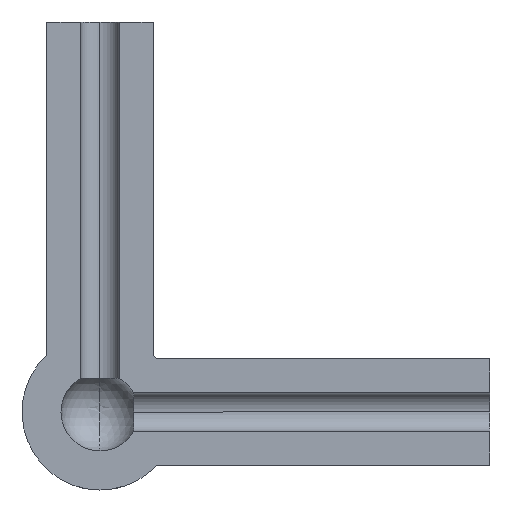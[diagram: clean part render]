
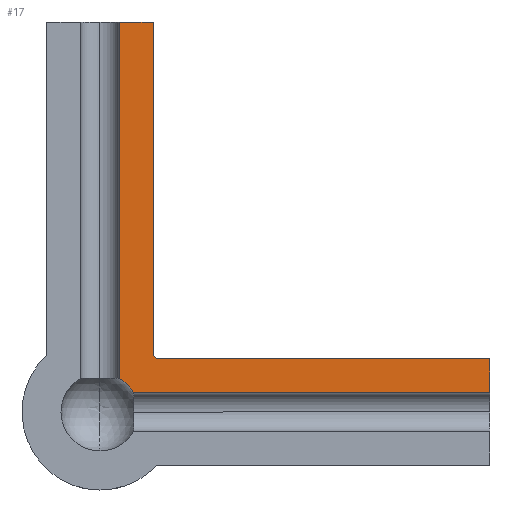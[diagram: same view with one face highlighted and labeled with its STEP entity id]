
A CAD part, left-side view. The second image highlights one B-rep face of the part: STEP entity #17.
In plain terms, the highlighted planar face has unit normal (-1, 0, 0).
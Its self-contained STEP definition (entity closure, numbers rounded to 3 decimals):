
#17 = ADVANCED_FACE('',(#18),#32,.F.);
#18 = FACE_BOUND('',#19,.F.);
#19 = EDGE_LOOP('',(#20,#53,#79,#105,#134,#160,#186,#212));
#20 = ORIENTED_EDGE('',*,*,#21,.T.);
#21 = EDGE_CURVE('',#22,#24,#26,.T.);
#22 = VERTEX_POINT('',#23);
#23 = CARTESIAN_POINT('',(0.,-87.613,82.));
#24 = VERTEX_POINT('',#25);
#25 = CARTESIAN_POINT('',(0.,-600.,82.));
#26 = SURFACE_CURVE('',#27,(#31,#42),.PCURVE_S1.);
#27 = LINE('',#28,#29);
#28 = CARTESIAN_POINT('',(0.,0.,82.));
#29 = VECTOR('',#30,1.);
#30 = DIRECTION('',(0.,-1.,0.));
#31 = PCURVE('',#32,#37);
#32 = PLANE('',#33);
#33 = AXIS2_PLACEMENT_3D('',#34,#35,#36);
#34 = CARTESIAN_POINT('',(0.,-700.,-200.));
#35 = DIRECTION('',(1.,0.,0.));
#36 = DIRECTION('',(0.,0.,1.));
#37 = DEFINITIONAL_REPRESENTATION('',(#38),#41);
#38 = B_SPLINE_CURVE_WITH_KNOTS('',1,(#39,#40),.UNSPECIFIED.,.F.,.F.,(2,
    2),(87.613,600.),.PIECEWISE_BEZIER_KNOTS.);
#39 = CARTESIAN_POINT('',(282.,-612.387));
#40 = CARTESIAN_POINT('',(282.,-100.));
#41 = ( GEOMETRIC_REPRESENTATION_CONTEXT(2) 
PARAMETRIC_REPRESENTATION_CONTEXT() REPRESENTATION_CONTEXT('2D SPACE',''
  ) );
#42 = PCURVE('',#43,#48);
#43 = CYLINDRICAL_SURFACE('',#44,82.);
#44 = AXIS2_PLACEMENT_3D('',#45,#46,#47);
#45 = CARTESIAN_POINT('',(0.,0.,0.));
#46 = DIRECTION('',(0.,-1.,0.));
#47 = DIRECTION('',(1.,0.,0.));
#48 = DEFINITIONAL_REPRESENTATION('',(#49),#52);
#49 = B_SPLINE_CURVE_WITH_KNOTS('',1,(#50,#51),.UNSPECIFIED.,.F.,.F.,(2,
    2),(87.613,600.),.PIECEWISE_BEZIER_KNOTS.);
#50 = CARTESIAN_POINT('',(1.571,87.613));
#51 = CARTESIAN_POINT('',(1.571,600.));
#52 = ( GEOMETRIC_REPRESENTATION_CONTEXT(2) 
PARAMETRIC_REPRESENTATION_CONTEXT() REPRESENTATION_CONTEXT('2D SPACE',''
  ) );
#53 = ORIENTED_EDGE('',*,*,#54,.T.);
#54 = EDGE_CURVE('',#24,#55,#57,.T.);
#55 = VERTEX_POINT('',#56);
#56 = CARTESIAN_POINT('',(0.,-600.,30.));
#57 = SURFACE_CURVE('',#58,(#62,#68),.PCURVE_S1.);
#58 = LINE('',#59,#60);
#59 = CARTESIAN_POINT('',(0.,-600.,-100.));
#60 = VECTOR('',#61,1.);
#61 = DIRECTION('',(0.,0.,-1.));
#62 = PCURVE('',#32,#63);
#63 = DEFINITIONAL_REPRESENTATION('',(#64),#67);
#64 = B_SPLINE_CURVE_WITH_KNOTS('',1,(#65,#66),.UNSPECIFIED.,.F.,.F.,(2,
    2),(-198.4,-1.6),.PIECEWISE_BEZIER_KNOTS.);
#65 = CARTESIAN_POINT('',(298.4,-100.));
#66 = CARTESIAN_POINT('',(101.6,-100.));
#67 = ( GEOMETRIC_REPRESENTATION_CONTEXT(2) 
PARAMETRIC_REPRESENTATION_CONTEXT() REPRESENTATION_CONTEXT('2D SPACE',''
  ) );
#68 = PCURVE('',#69,#74);
#69 = PLANE('',#70);
#70 = AXIS2_PLACEMENT_3D('',#71,#72,#73);
#71 = CARTESIAN_POINT('',(0.,-600.,0.));
#72 = DIRECTION('',(0.,-1.,0.));
#73 = DIRECTION('',(1.,0.,0.));
#74 = DEFINITIONAL_REPRESENTATION('',(#75),#78);
#75 = B_SPLINE_CURVE_WITH_KNOTS('',1,(#76,#77),.UNSPECIFIED.,.F.,.F.,(2,
    2),(-198.4,-1.6),.PIECEWISE_BEZIER_KNOTS.);
#76 = CARTESIAN_POINT('',(0.,98.4));
#77 = CARTESIAN_POINT('',(0.,-98.4));
#78 = ( GEOMETRIC_REPRESENTATION_CONTEXT(2) 
PARAMETRIC_REPRESENTATION_CONTEXT() REPRESENTATION_CONTEXT('2D SPACE',''
  ) );
#79 = ORIENTED_EDGE('',*,*,#80,.F.);
#80 = EDGE_CURVE('',#81,#55,#83,.T.);
#81 = VERTEX_POINT('',#82);
#82 = CARTESIAN_POINT('',(0.,-51.962,30.));
#83 = SURFACE_CURVE('',#84,(#88,#94),.PCURVE_S1.);
#84 = LINE('',#85,#86);
#85 = CARTESIAN_POINT('',(0.,0.,30.));
#86 = VECTOR('',#87,1.);
#87 = DIRECTION('',(0.,-1.,0.));
#88 = PCURVE('',#32,#89);
#89 = DEFINITIONAL_REPRESENTATION('',(#90),#93);
#90 = B_SPLINE_CURVE_WITH_KNOTS('',1,(#91,#92),.UNSPECIFIED.,.F.,.F.,(2,
    2),(51.962,600.),.PIECEWISE_BEZIER_KNOTS.);
#91 = CARTESIAN_POINT('',(230.,-648.038));
#92 = CARTESIAN_POINT('',(230.,-100.));
#93 = ( GEOMETRIC_REPRESENTATION_CONTEXT(2) 
PARAMETRIC_REPRESENTATION_CONTEXT() REPRESENTATION_CONTEXT('2D SPACE',''
  ) );
#94 = PCURVE('',#95,#100);
#95 = CYLINDRICAL_SURFACE('',#96,30.);
#96 = AXIS2_PLACEMENT_3D('',#97,#98,#99);
#97 = CARTESIAN_POINT('',(0.,0.,0.));
#98 = DIRECTION('',(0.,-1.,0.));
#99 = DIRECTION('',(1.,0.,0.));
#100 = DEFINITIONAL_REPRESENTATION('',(#101),#104);
#101 = B_SPLINE_CURVE_WITH_KNOTS('',1,(#102,#103),.UNSPECIFIED.,.F.,.F.,
  (2,2),(51.962,600.),.PIECEWISE_BEZIER_KNOTS.);
#102 = CARTESIAN_POINT('',(1.571,51.962));
#103 = CARTESIAN_POINT('',(1.571,600.));
#104 = ( GEOMETRIC_REPRESENTATION_CONTEXT(2) 
PARAMETRIC_REPRESENTATION_CONTEXT() REPRESENTATION_CONTEXT('2D SPACE',''
  ) );
#105 = ORIENTED_EDGE('',*,*,#106,.F.);
#106 = EDGE_CURVE('',#107,#81,#109,.T.);
#107 = VERTEX_POINT('',#108);
#108 = CARTESIAN_POINT('',(0.,-30.,51.962));
#109 = SURFACE_CURVE('',#110,(#115,#122),.PCURVE_S1.);
#110 = CIRCLE('',#111,60.);
#111 = AXIS2_PLACEMENT_3D('',#112,#113,#114);
#112 = CARTESIAN_POINT('',(0.,0.,0.));
#113 = DIRECTION('',(1.,0.,0.));
#114 = DIRECTION('',(0.,0.,1.));
#115 = PCURVE('',#32,#116);
#116 = DEFINITIONAL_REPRESENTATION('',(#117),#121);
#117 = CIRCLE('',#118,60.);
#118 = AXIS2_PLACEMENT_2D('',#119,#120);
#119 = CARTESIAN_POINT('',(200.,-700.));
#120 = DIRECTION('',(1.,0.));
#121 = ( GEOMETRIC_REPRESENTATION_CONTEXT(2) 
PARAMETRIC_REPRESENTATION_CONTEXT() REPRESENTATION_CONTEXT('2D SPACE',''
  ) );
#122 = PCURVE('',#123,#128);
#123 = SPHERICAL_SURFACE('',#124,60.);
#124 = AXIS2_PLACEMENT_3D('',#125,#126,#127);
#125 = CARTESIAN_POINT('',(0.,0.,0.));
#126 = DIRECTION('',(0.,0.,1.));
#127 = DIRECTION('',(1.,0.,0.));
#128 = DEFINITIONAL_REPRESENTATION('',(#129),#133);
#129 = LINE('',#130,#131);
#130 = CARTESIAN_POINT('',(4.712,1.571));
#131 = VECTOR('',#132,1.);
#132 = DIRECTION('',(0.,-1.));
#133 = ( GEOMETRIC_REPRESENTATION_CONTEXT(2) 
PARAMETRIC_REPRESENTATION_CONTEXT() REPRESENTATION_CONTEXT('2D SPACE',''
  ) );
#134 = ORIENTED_EDGE('',*,*,#135,.T.);
#135 = EDGE_CURVE('',#107,#136,#138,.T.);
#136 = VERTEX_POINT('',#137);
#137 = CARTESIAN_POINT('',(0.,-30.,600.));
#138 = SURFACE_CURVE('',#139,(#143,#149),.PCURVE_S1.);
#139 = LINE('',#140,#141);
#140 = CARTESIAN_POINT('',(0.,-30.,0.));
#141 = VECTOR('',#142,1.);
#142 = DIRECTION('',(0.,0.,1.));
#143 = PCURVE('',#32,#144);
#144 = DEFINITIONAL_REPRESENTATION('',(#145),#148);
#145 = B_SPLINE_CURVE_WITH_KNOTS('',1,(#146,#147),.UNSPECIFIED.,.F.,.F.,
  (2,2),(51.962,600.),.PIECEWISE_BEZIER_KNOTS.);
#146 = CARTESIAN_POINT('',(251.962,-670.));
#147 = CARTESIAN_POINT('',(800.,-670.));
#148 = ( GEOMETRIC_REPRESENTATION_CONTEXT(2) 
PARAMETRIC_REPRESENTATION_CONTEXT() REPRESENTATION_CONTEXT('2D SPACE',''
  ) );
#149 = PCURVE('',#150,#155);
#150 = CYLINDRICAL_SURFACE('',#151,30.);
#151 = AXIS2_PLACEMENT_3D('',#152,#153,#154);
#152 = CARTESIAN_POINT('',(0.,0.,0.));
#153 = DIRECTION('',(0.,0.,1.));
#154 = DIRECTION('',(1.,0.,0.));
#155 = DEFINITIONAL_REPRESENTATION('',(#156),#159);
#156 = B_SPLINE_CURVE_WITH_KNOTS('',1,(#157,#158),.UNSPECIFIED.,.F.,.F.,
  (2,2),(51.962,600.),.PIECEWISE_BEZIER_KNOTS.);
#157 = CARTESIAN_POINT('',(4.712,51.962));
#158 = CARTESIAN_POINT('',(4.712,600.));
#159 = ( GEOMETRIC_REPRESENTATION_CONTEXT(2) 
PARAMETRIC_REPRESENTATION_CONTEXT() REPRESENTATION_CONTEXT('2D SPACE',''
  ) );
#160 = ORIENTED_EDGE('',*,*,#161,.T.);
#161 = EDGE_CURVE('',#136,#162,#164,.T.);
#162 = VERTEX_POINT('',#163);
#163 = CARTESIAN_POINT('',(0.,-82.,600.));
#164 = SURFACE_CURVE('',#165,(#169,#175),.PCURVE_S1.);
#165 = LINE('',#166,#167);
#166 = CARTESIAN_POINT('',(0.,-350.,600.));
#167 = VECTOR('',#168,1.);
#168 = DIRECTION('',(0.,-1.,0.));
#169 = PCURVE('',#32,#170);
#170 = DEFINITIONAL_REPRESENTATION('',(#171),#174);
#171 = B_SPLINE_CURVE_WITH_KNOTS('',1,(#172,#173),.UNSPECIFIED.,.F.,.F.,
  (2,2),(-448.4,-251.6),.PIECEWISE_BEZIER_KNOTS.);
#172 = CARTESIAN_POINT('',(800.,-798.4));
#173 = CARTESIAN_POINT('',(800.,-601.6));
#174 = ( GEOMETRIC_REPRESENTATION_CONTEXT(2) 
PARAMETRIC_REPRESENTATION_CONTEXT() REPRESENTATION_CONTEXT('2D SPACE',''
  ) );
#175 = PCURVE('',#176,#181);
#176 = PLANE('',#177);
#177 = AXIS2_PLACEMENT_3D('',#178,#179,#180);
#178 = CARTESIAN_POINT('',(0.,0.,600.));
#179 = DIRECTION('',(0.,0.,1.));
#180 = DIRECTION('',(1.,0.,0.));
#181 = DEFINITIONAL_REPRESENTATION('',(#182),#185);
#182 = B_SPLINE_CURVE_WITH_KNOTS('',1,(#183,#184),.UNSPECIFIED.,.F.,.F.,
  (2,2),(-448.4,-251.6),.PIECEWISE_BEZIER_KNOTS.);
#183 = CARTESIAN_POINT('',(0.,98.4));
#184 = CARTESIAN_POINT('',(0.,-98.4));
#185 = ( GEOMETRIC_REPRESENTATION_CONTEXT(2) 
PARAMETRIC_REPRESENTATION_CONTEXT() REPRESENTATION_CONTEXT('2D SPACE',''
  ) );
#186 = ORIENTED_EDGE('',*,*,#187,.F.);
#187 = EDGE_CURVE('',#188,#162,#190,.T.);
#188 = VERTEX_POINT('',#189);
#189 = CARTESIAN_POINT('',(0.,-82.,87.613));
#190 = SURFACE_CURVE('',#191,(#195,#201),.PCURVE_S1.);
#191 = LINE('',#192,#193);
#192 = CARTESIAN_POINT('',(0.,-82.,0.));
#193 = VECTOR('',#194,1.);
#194 = DIRECTION('',(0.,0.,1.));
#195 = PCURVE('',#32,#196);
#196 = DEFINITIONAL_REPRESENTATION('',(#197),#200);
#197 = B_SPLINE_CURVE_WITH_KNOTS('',1,(#198,#199),.UNSPECIFIED.,.F.,.F.,
  (2,2),(87.613,600.),.PIECEWISE_BEZIER_KNOTS.);
#198 = CARTESIAN_POINT('',(287.613,-618.));
#199 = CARTESIAN_POINT('',(800.,-618.));
#200 = ( GEOMETRIC_REPRESENTATION_CONTEXT(2) 
PARAMETRIC_REPRESENTATION_CONTEXT() REPRESENTATION_CONTEXT('2D SPACE',''
  ) );
#201 = PCURVE('',#202,#207);
#202 = CYLINDRICAL_SURFACE('',#203,82.);
#203 = AXIS2_PLACEMENT_3D('',#204,#205,#206);
#204 = CARTESIAN_POINT('',(0.,0.,0.));
#205 = DIRECTION('',(0.,0.,1.));
#206 = DIRECTION('',(1.,0.,0.));
#207 = DEFINITIONAL_REPRESENTATION('',(#208),#211);
#208 = B_SPLINE_CURVE_WITH_KNOTS('',1,(#209,#210),.UNSPECIFIED.,.F.,.F.,
  (2,2),(87.613,600.),.PIECEWISE_BEZIER_KNOTS.);
#209 = CARTESIAN_POINT('',(4.712,87.613));
#210 = CARTESIAN_POINT('',(4.712,600.));
#211 = ( GEOMETRIC_REPRESENTATION_CONTEXT(2) 
PARAMETRIC_REPRESENTATION_CONTEXT() REPRESENTATION_CONTEXT('2D SPACE',''
  ) );
#212 = ORIENTED_EDGE('',*,*,#213,.T.);
#213 = EDGE_CURVE('',#188,#22,#214,.T.);
#214 = SURFACE_CURVE('',#215,(#220,#227),.PCURVE_S1.);
#215 = CIRCLE('',#216,120.);
#216 = AXIS2_PLACEMENT_3D('',#217,#218,#219);
#217 = CARTESIAN_POINT('',(0.,0.,0.));
#218 = DIRECTION('',(1.,0.,0.));
#219 = DIRECTION('',(0.,0.,1.));
#220 = PCURVE('',#32,#221);
#221 = DEFINITIONAL_REPRESENTATION('',(#222),#226);
#222 = CIRCLE('',#223,120.);
#223 = AXIS2_PLACEMENT_2D('',#224,#225);
#224 = CARTESIAN_POINT('',(200.,-700.));
#225 = DIRECTION('',(1.,0.));
#226 = ( GEOMETRIC_REPRESENTATION_CONTEXT(2) 
PARAMETRIC_REPRESENTATION_CONTEXT() REPRESENTATION_CONTEXT('2D SPACE',''
  ) );
#227 = PCURVE('',#228,#233);
#228 = SPHERICAL_SURFACE('',#229,120.);
#229 = AXIS2_PLACEMENT_3D('',#230,#231,#232);
#230 = CARTESIAN_POINT('',(0.,0.,0.));
#231 = DIRECTION('',(0.,0.,1.));
#232 = DIRECTION('',(1.,0.,0.));
#233 = DEFINITIONAL_REPRESENTATION('',(#234),#238);
#234 = LINE('',#235,#236);
#235 = CARTESIAN_POINT('',(4.712,1.571));
#236 = VECTOR('',#237,1.);
#237 = DIRECTION('',(0.,-1.));
#238 = ( GEOMETRIC_REPRESENTATION_CONTEXT(2) 
PARAMETRIC_REPRESENTATION_CONTEXT() REPRESENTATION_CONTEXT('2D SPACE',''
  ) );
